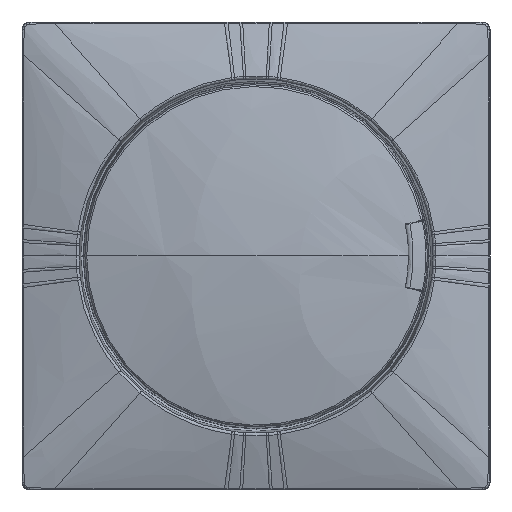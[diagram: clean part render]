
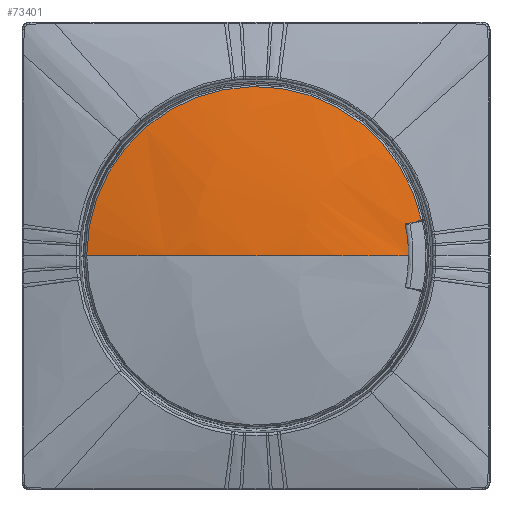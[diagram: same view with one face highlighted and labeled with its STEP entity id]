
A CAD part, top view. The second image highlights one B-rep face of the part: STEP entity #73401.
In plain terms, the highlighted spherical face has radius 97 mm.
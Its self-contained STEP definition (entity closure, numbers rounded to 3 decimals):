
#71124=CARTESIAN_POINT('',(20.378,3.74,
-4.254));
#71168=CARTESIAN_POINT('',(19.043,4.03,
-3.966));
#71179=CARTESIAN_POINT('',(20.914,3.611,
-4.508));
#71180=CARTESIAN_POINT('',(20.891,3.617,
-4.503));
#71181=CARTESIAN_POINT('',(20.847,3.627,
-4.493));
#71182=CARTESIAN_POINT('',(20.787,3.641,
-4.478));
#71183=CARTESIAN_POINT('',(20.732,3.653,
-4.462));
#71184=CARTESIAN_POINT('',(20.683,3.665,
-4.446));
#71185=CARTESIAN_POINT('',(20.638,3.676,
-4.43));
#71186=CARTESIAN_POINT('',(20.597,3.685,
-4.414));
#71187=CARTESIAN_POINT('',(20.561,3.694,
-4.398));
#71188=CARTESIAN_POINT('',(20.527,3.702,
-4.382));
#71189=CARTESIAN_POINT('',(20.497,3.709,
-4.366));
#71190=CARTESIAN_POINT('',(20.471,3.715,
-4.351));
#71191=CARTESIAN_POINT('',(20.447,3.721,
-4.336));
#71192=CARTESIAN_POINT('',(20.427,3.726,
-4.32));
#71193=CARTESIAN_POINT('',(20.409,3.731,
-4.305));
#71194=CARTESIAN_POINT('',(20.395,3.735,
-4.29));
#71195=CARTESIAN_POINT('',(20.382,3.738,
-4.277));
#71196=CARTESIAN_POINT('',(20.38,3.739,
-4.26));
#71197=CARTESIAN_POINT('',(20.378,3.74,
-4.254));
#71199=CARTESIAN_POINT('',(20.378,3.74,
-4.254));
#71200=CARTESIAN_POINT('',(20.375,3.74,
-4.26));
#71201=CARTESIAN_POINT('',(20.368,3.742,
-4.267));
#71202=CARTESIAN_POINT('',(20.359,3.743,
-4.272));
#71203=CARTESIAN_POINT('',(20.348,3.745,
-4.277));
#71204=CARTESIAN_POINT('',(20.335,3.748,
-4.281));
#71205=CARTESIAN_POINT('',(20.32,3.751,
-4.284));
#71206=CARTESIAN_POINT('',(20.304,3.754,
-4.286));
#71207=CARTESIAN_POINT('',(20.287,3.758,
-4.288));
#71208=CARTESIAN_POINT('',(20.268,3.762,
-4.288));
#71209=CARTESIAN_POINT('',(20.247,3.766,
-4.289));
#71210=CARTESIAN_POINT('',(20.225,3.771,
-4.288));
#71211=CARTESIAN_POINT('',(20.2,3.776,
-4.286));
#71212=CARTESIAN_POINT('',(20.174,3.782,
-4.284));
#71213=CARTESIAN_POINT('',(20.145,3.788,
-4.28));
#71214=CARTESIAN_POINT('',(20.114,3.795,
-4.275));
#71215=CARTESIAN_POINT('',(20.091,3.8,
-4.271));
#71216=CARTESIAN_POINT('',(20.08,3.803,
-4.268));
#71218=CARTESIAN_POINT('',(0.,-91.,0.));
#71219=DIRECTION('',(0.208,0.,0.978));
#71220=DIRECTION('',(0.207,0.977,-0.044));
#71221=AXIS2_PLACEMENT_3D('',#71218,#71219,#71220);
#71223=CARTESIAN_POINT('',(19.117,4.011,
-4.064));
#71224=CARTESIAN_POINT('',(19.099,4.014,
-4.06));
#71225=CARTESIAN_POINT('',(19.069,4.021,
-4.045));
#71226=CARTESIAN_POINT('',(19.042,4.028,
-4.006));
#71227=CARTESIAN_POINT('',(19.04,4.03,
-3.98));
#71228=CARTESIAN_POINT('',(19.043,4.03,
-3.966));
#71230=CARTESIAN_POINT('',(0.,4.03,0.));
#71231=DIRECTION('',(0.,-1.,0.));
#71232=DIRECTION('',(0.979,0.,-0.204));
#71233=AXIS2_PLACEMENT_3D('',#71230,#71231,#71232);
#71235=CARTESIAN_POINT('',(0.,3.566,0.));
#71236=DIRECTION('',(0.,-1.,0.));
#71237=DIRECTION('',(-1.,0.,0.));
#71238=AXIS2_PLACEMENT_3D('',#71235,#71236,#71237);
#71240=CARTESIAN_POINT('',(-0.017,-91.,-0.078));
#71241=DIRECTION('',(0.207,0.,0.978));
#71242=DIRECTION('',(0.218,0.975,-0.046));
#71243=AXIS2_PLACEMENT_3D('',#71240,#71241,#71242);
#71325=CARTESIAN_POINT('',(-21.595,3.566,
-0.002));
#71326=CARTESIAN_POINT('',(-20.65,3.781,
-0.001));
#71327=CARTESIAN_POINT('',(-18.763,4.184,
0.));
#71328=CARTESIAN_POINT('',(-15.849,4.71,
0.));
#71329=CARTESIAN_POINT('',(-13.154,5.118,
0.));
#71330=CARTESIAN_POINT('',(-10.328,5.461,
0.));
#71331=CARTESIAN_POINT('',(-7.741,5.703,
0.));
#71332=CARTESIAN_POINT('',(-5.028,5.881,
0.));
#71333=CARTESIAN_POINT('',(-2.546,5.977,
0.002));
#71334=CARTESIAN_POINT('',(-0.844,6.,
-0.004));
#71335=CARTESIAN_POINT('',(0.,6.,
0.));
#71337=CARTESIAN_POINT('',(0.,6.,
0.));
#71338=CARTESIAN_POINT('',(1.006,6.,
0.005));
#71339=CARTESIAN_POINT('',(2.936,5.969,
-0.002));
#71340=CARTESIAN_POINT('',(5.574,5.851,
0.001));
#71341=CARTESIAN_POINT('',(7.956,5.682,
0.002));
#71342=CARTESIAN_POINT('',(9.375,5.548,
-0.004));
#71343=CARTESIAN_POINT('',(10.04,5.479,
0.));
#71345=CARTESIAN_POINT('',(10.04,5.479,
0.));
#71346=CARTESIAN_POINT('',(10.52,5.429,
0.001));
#71347=CARTESIAN_POINT('',(11.438,5.326,
-0.001));
#71348=CARTESIAN_POINT('',(12.679,5.17,
0.001));
#71349=CARTESIAN_POINT('',(13.814,5.013,
0.003));
#71350=CARTESIAN_POINT('',(14.86,4.857,
0.003));
#71351=CARTESIAN_POINT('',(15.839,4.7,
-0.004));
#71352=CARTESIAN_POINT('',(16.76,4.543,
0.002));
#71353=CARTESIAN_POINT('',(17.674,4.378,
-0.002));
#71354=CARTESIAN_POINT('',(18.533,4.214,
-0.001));
#71355=CARTESIAN_POINT('',(19.133,4.095,
-0.006));
#71356=CARTESIAN_POINT('',(19.452,4.03,
0.));
#72605=CARTESIAN_POINT('',(21.111,3.566,
-4.55));
#72606=VERTEX_POINT('',#72605);
#72609=CARTESIAN_POINT('',(20.914,3.611,
-4.508));
#72610=VERTEX_POINT('',#72609);
#72611=VERTEX_POINT('',#71124);
#72623=CARTESIAN_POINT('',(20.08,3.803,
-4.268));
#72624=VERTEX_POINT('',#72623);
#72625=CARTESIAN_POINT('',(19.117,4.011,
-4.064));
#72626=VERTEX_POINT('',#72625);
#72627=VERTEX_POINT('',#71168);
#72628=CARTESIAN_POINT('',(19.452,4.03,
0.));
#72629=VERTEX_POINT('',#72628);
#72630=VERTEX_POINT('',#71345);
#72631=VERTEX_POINT('',#71337);
#72632=VERTEX_POINT('',#71325);
#73380=CARTESIAN_POINT('',(0.,-91.,0.));
#73381=DIRECTION('',(0.201,0.98,0.));
#73382=DIRECTION('',(0.897,-0.184,-0.403));
#73383=AXIS2_PLACEMENT_3D('',#73380,#73381,#73382);
#73384=SPHERICAL_SURFACE('',#73383,97.);
#73385=ORIENTED_EDGE('',*,*,#73305,.T.);
#73386=ORIENTED_EDGE('',*,*,#73348,.T.);
#73387=ORIENTED_EDGE('',*,*,#73375,.T.);
#73388=ORIENTED_EDGE('',*,*,#73363,.T.);
#73390=ORIENTED_EDGE('',*,*,#73389,.T.);
#73392=ORIENTED_EDGE('',*,*,#73391,.F.);
#73394=ORIENTED_EDGE('',*,*,#73393,.F.);
#73396=ORIENTED_EDGE('',*,*,#73395,.F.);
#73397=ORIENTED_EDGE('',*,*,#73110,.T.);
#73398=ORIENTED_EDGE('',*,*,#73164,.T.);
#73399=EDGE_LOOP('',(#73385,#73386,#73387,#73388,#73390,#73392,#73394,#73396,
#73397,#73398));
#73400=FACE_OUTER_BOUND('',#73399,.F.);
#73401=ADVANCED_FACE('',(#73400),#73384,.T.);
#71198=B_SPLINE_CURVE_WITH_KNOTS('',3,(#71179,#71180,#71181,#71182,#71183,
#71184,#71185,#71186,#71187,#71188,#71189,#71190,#71191,#71192,#71193,#71194,
#71195,#71196,#71197),.UNSPECIFIED.,.F.,.F.,(4,1,1,1,1,1,1,1,1,1,1,1,1,1,1,1,4),
(0.,0.063,0.125,0.188,0.25,0.313,0.375,0.438,0.5,0.563,
0.625,0.688,0.75,0.813,0.875,0.938,1.),.UNSPECIFIED.);
#71217=B_SPLINE_CURVE_WITH_KNOTS('',3,(#71199,#71200,#71201,#71202,#71203,
#71204,#71205,#71206,#71207,#71208,#71209,#71210,#71211,#71212,#71213,#71214,
#71215,#71216),.UNSPECIFIED.,.F.,.F.,(4,1,1,1,1,1,1,1,1,1,1,1,1,1,1,4),(0.,
0.067,0.133,0.2,0.267,0.333,
0.4,0.467,0.533,0.6,0.667,
0.733,0.8,0.867,0.933,1.),
.UNSPECIFIED.);
#71222=CIRCLE('',#71221,97.);
#71229=B_SPLINE_CURVE_WITH_KNOTS('',3,(#71223,#71224,#71225,#71226,#71227,
#71228),.UNSPECIFIED.,.F.,.F.,(4,1,1,4),(0.,0.333,
0.667,1.),.UNSPECIFIED.);
#71234=CIRCLE('',#71233,19.452);
#71239=CIRCLE('',#71238,21.595);
#71244=CIRCLE('',#71243,97.);
#71336=B_SPLINE_CURVE_WITH_KNOTS('',3,(#71325,#71326,#71327,#71328,#71329,
#71330,#71331,#71332,#71333,#71334,#71335),.UNSPECIFIED.,.F.,.F.,(4,1,1,1,1,1,1,
1,4),(0.,0.125,0.25,0.375,0.5,0.625,0.75,0.875,1.),
.UNSPECIFIED.);
#71344=B_SPLINE_CURVE_WITH_KNOTS('',3,(#71337,#71338,#71339,#71340,#71341,
#71342,#71343),.UNSPECIFIED.,.F.,.F.,(4,1,1,1,4),(0.,0.25,0.5,0.75,
1.),.UNSPECIFIED.);
#71357=B_SPLINE_CURVE_WITH_KNOTS('',3,(#71345,#71346,#71347,#71348,#71349,
#71350,#71351,#71352,#71353,#71354,#71355,#71356),.UNSPECIFIED.,.F.,.F.,(4,1,1,
1,1,1,1,1,1,4),(0.,0.111,0.222,0.333,
0.444,0.556,0.667,0.778,
0.889,1.),.UNSPECIFIED.);
#73110=EDGE_CURVE('',#72632,#72606,#71239,.T.);
#73164=EDGE_CURVE('',#72606,#72610,#71244,.T.);
#73305=EDGE_CURVE('',#72610,#72611,#71198,.T.);
#73348=EDGE_CURVE('',#72611,#72624,#71217,.T.);
#73363=EDGE_CURVE('',#72626,#72627,#71229,.T.);
#73375=EDGE_CURVE('',#72624,#72626,#71222,.T.);
#73389=EDGE_CURVE('',#72627,#72629,#71234,.T.);
#73391=EDGE_CURVE('',#72630,#72629,#71357,.T.);
#73393=EDGE_CURVE('',#72631,#72630,#71344,.T.);
#73395=EDGE_CURVE('',#72632,#72631,#71336,.T.);
